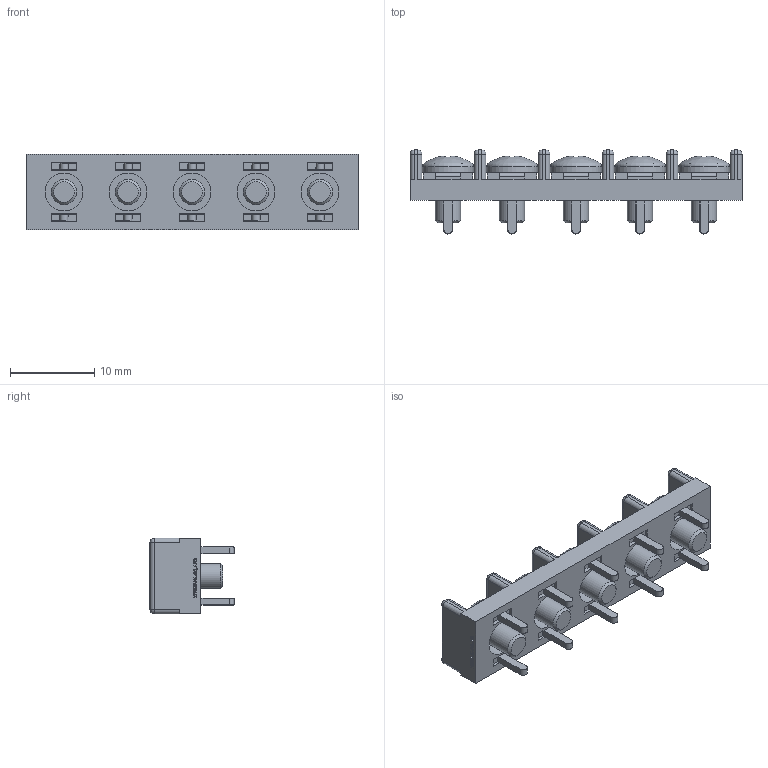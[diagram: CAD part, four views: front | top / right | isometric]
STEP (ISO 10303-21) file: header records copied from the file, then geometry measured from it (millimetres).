
FILE_DESCRIPTION(/* description */ ('Alibre Inc.'),/* implementation_level */ '2;1');
FILE_NAME(/* name */ 'export0',/* time_stamp */ '2015-11-28T15:40:39+09:00',/* author */ (''),/* organization */ (''),/* preprocessor_version */ 'ST-DEVELOPER v14',/* originating_system */ 'Alibre',/* authorisation */ '');
FILE_SCHEMA (('CONFIG_CONTROL_DESIGN'));
Length unit declared in the file: centimetre
Products named in the file (1): ID_1
Bounding box: 39.52 x 10 x 9 mm (x, y, z)
Volume: 1482.5 mm3; surface area: 2728.8 mm2
Topology: 1 solids, 65 shells, 1385 faces, 3577 edges, 2338 vertices
Faces by surface type: plane 978, bspline 260, cylinder 88, sphere 29, cone 25, torus 5
Full cylindrical faces by diameter (mm): 3 x10, 4.5 x5, 6.1 x5
Entity records: 40230 total; most frequent: CARTESIAN_POINT 9611, ORIENTED_EDGE 7026, DIRECTION 4407, EDGE_CURVE 3513, VECTOR 2623, LINE 2623, VERTEX_POINT 2328, EDGE_LOOP 1507
